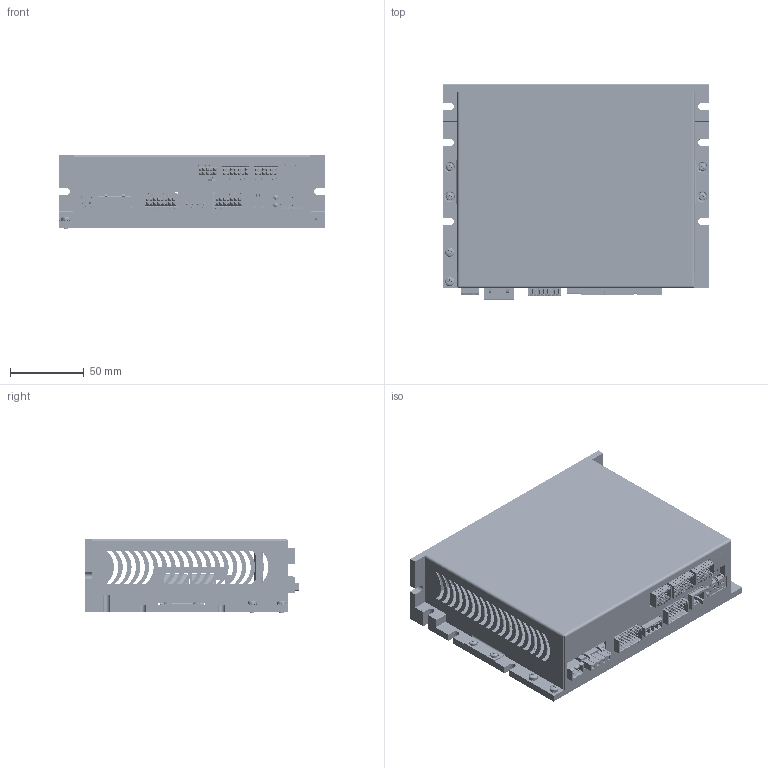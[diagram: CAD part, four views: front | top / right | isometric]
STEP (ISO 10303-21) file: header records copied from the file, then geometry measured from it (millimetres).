
FILE_DESCRIPTION(/* description */ ('Unknown'),/* implementation_level */ '2;1');
FILE_NAME(/* name */ 'SW5A9030L2G1-20',/* time_stamp */ '2021-05-10T14:58:05+02:00',/* author */ ('Unknown'),/* organization */ ('Unknown'),/* preprocessor_version */ 'ST-DEVELOPER v16.7',/* originating_system */ 'Solid Edge',/* authorisation */ 'Unknown');
FILE_SCHEMA (('AUTOMOTIVE_DESIGN {1 0 10303 214 3 1 1}'));
Products named in the file (57): SW5A9030; estruso_sw5a9030_isd04_inserti; ESTRUSO_SW5A9030_ISD04; inserto_m2_5x12mm; ad_01121_sw5a9030_isd04; hexdist_MF_M2e5 x 30mm; dentellata_M3; tcc_M2e5x05; ISD04-00_oa_0; Board; Open CASCADE STEP translator 6.8 1.1.1; CN7; 1782378; mc_1.5-4-g-3.81-p14-thr; CN3; dinkle_0156-1514; CN2; 1731086; CN4; dinkle_0156-1516l; GL400; 5151061f; J400; IMD03DIP-00; DIP100; a6e-4104; SW401; RTE0400V04; SW400; JMP500; 79202-x02lf; CN6; 955012641; Open CASCADE STEP translator 6.8 1.503.1.1; Open CASCADE STEP translator 6.8 1.503.1.2; CN5B; c-5555153-1-c-3d; CN5A; CN1; CA02MHLT5.08B_1757242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
Assembly tree (76 placements, depth 6):
  SW5A9030
    estruso_sw5a9030_isd04_inserti
      ESTRUSO_SW5A9030_ISD04
      inserto_m2_5x12mm  x3
    ad_01121_sw5a9030_isd04
    hexdist_MF_M2e5 x 30mm  x2
    dentellata_M3  x2
    tcc_M2e5x05  x12
    ISD04-00_oa_0
      Board
        Open CASCADE STEP translator 6.8 1.1.1
      CN7
        1782378
          mc_1.5-4-g-3.81-p14-thr
      CN3
        dinkle_0156-1514
      CN2
        1731086
      CN4
        dinkle_0156-1516l
      GL400
        5151061f
      J400
        IMD03DIP-00
          Board
          DIP100
            a6e-4104
      SW401
        RTE0400V04
      SW400
        RTE0400V04
      JMP500
        79202-x02lf  x2
      CN6
        955012641
          Open CASCADE STEP translator 6.8 1.503.1.1
          Open CASCADE STEP translator 6.8 1.503.1.2
      CN5B
        c-5555153-1-c-3d
      CN5A
        c-5555153-1-c-3d
      CN1
        CA02MHLT5.08B_1757242
          MSTBA_2_5-2-G-5_08-72070_ASM
            MSTBA_2_5-2-G-5_08-69580
    tcc_M3x06  x2
    Scatola SW5A9030 con ISD04
    ISX04-00_oa_1
      Board
        Open CASCADE STEP translator 6.8 2.1.1
      CN13
        dinkle_0156-1510_COLORATO
      LED401
        LED_HSMx-C680
      LED400
        LED_HSMx-C680
      CN11
        dinkle_0156-1514
      CN10
        dinkle_0156-1512
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Bounding box: 180.7 x 146.11 x 50.4 mm (x, y, z)
Volume: 280197.4 mm3; surface area: 240811.5 mm2
Topology: 45 solids, 74 shells, 9583 faces, 25704 edges, 16585 vertices
Faces by surface type: plane 7251, cylinder 1802, bspline 230, cone 136, sphere 84, torus 80
Full cylindrical faces by diameter (mm): 0.406 x8, 0.434 x1, 0.457 x2, 0.762 x48, 0.8 x12, 0.889 x8, 0.9 x20, 1 x25, 1.016 x58, 1.2 x8, 1.25 x4, 1.27 x2, 1.397 x1, 1.4 x84, 1.5 x6, 1.524 x6, 1.53 x1, 1.55 x1, 1.6 x10, 1.778 x4, 2.013 x9, 2.032 x6, 2.05 x3, 2.459 x2, 2.5 x21, 2.7 x10, 2.75 x2, 2.8 x4, 3 x6, 3.048 x2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
Entity records: 301178 total; most frequent: CARTESIAN_POINT 51168, ORIENTED_EDGE 43086, DIRECTION 40556, EDGE_CURVE 21579, LINE 17320, VECTOR 17320, VERTEX_POINT 14213, AXIS2_PLACEMENT_3D 11618
